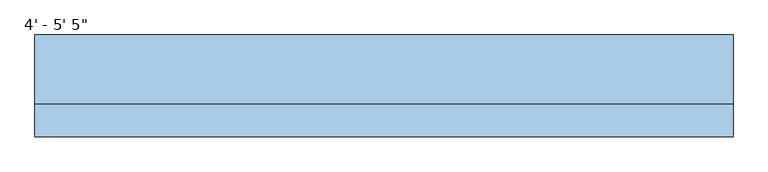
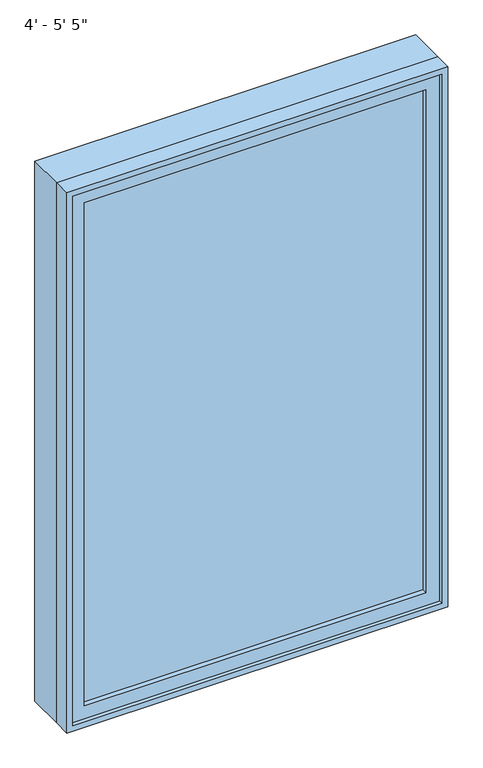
"""IFC4 building model written with IfcOpenShell, lengths in millimetres: window geometry."""

import ifcopenshell
import ifcopenshell.guid

model = None  # the IFC model being written
_history = None  # IfcOwnerHistory: only IFC2X3 demands one
_inside = {}  # id of a spatial element -> (the spatial element, [elements in it])
_under = {}  # id of a project, library or spatial element -> (it, [spatial elements below it])
_declared = {}  # id of a project -> (the project, [libraries it declares])
_typed = {}  # id of a type object -> (the type object, [elements of that type])
_made_of = {}  # id of a material, layer set ... -> (it, [elements and type objects made of it])


def new_model(schema):
    """Start an empty IFC model of exactly this schema.

    Asked for "IFC4X3", IfcOpenShell would pick the latest addendum, in which some entities
    have other attributes; the version numbers below select the first issue.
    IFC2X3 requires an IfcOwnerHistory on every rooted entity: one is made here for all.
    """
    global model, _history
    if schema == "IFC4X3":
        model = ifcopenshell.file(schema_version=(4, 3, 0, 0))
    else:
        model = ifcopenshell.file(schema=schema)
    _inside.clear()
    _under.clear()
    _declared.clear()
    _typed.clear()
    _made_of.clear()
    _history = None
    if model.schema == "IFC2X3":
        org = make("IfcOrganization", Name="unknown")
        user = make(
            "IfcPersonAndOrganization",
            ThePerson=make("IfcPerson", FamilyName="unknown"),
            TheOrganization=org,
        )
        app = make(
            "IfcApplication",
            ApplicationDeveloper=org,
            Version="unknown",
            ApplicationFullName="unknown",
            ApplicationIdentifier="unknown",
        )
        _history = make(
            "IfcOwnerHistory",
            OwningUser=user,
            OwningApplication=app,
            ChangeAction="ADDED",
            CreationDate=0,
        )
    return model


def make(cls, **values):
    """One entity of the class cls with the attributes given. An attribute that is None is left unset."""
    return model.create_entity(
        cls, **{name: value for name, value in values.items() if value is not None}
    )


def rooted(cls, **values):
    """An entity with a GlobalId (a new one), such as an element, a storey or a relation."""
    return make(cls, GlobalId=ifcopenshell.guid.new(), OwnerHistory=_history, **values)


def si_unit(unit_type, name, prefix=None):
    """IfcSIUnit, for example si_unit("LENGTHUNIT", "METRE", prefix="MILLI")."""
    return make("IfcSIUnit", UnitType=unit_type, Prefix=prefix, Name=name)


def assignment(units):
    """IfcUnitAssignment: the units of a project."""
    return None if units is None else make("IfcUnitAssignment", Units=units)


def point(xyz):
    """IfcCartesianPoint."""
    return None if xyz is None else make("IfcCartesianPoint", Coordinates=xyz)


def direction(xyz):
    """IfcDirection."""
    return None if xyz is None else make("IfcDirection", DirectionRatios=xyz)


def frame(location, z_axis=None, x_axis=None):
    """IfcAxis2Placement3D, a coordinate frame: its origin and axes. An axis left out is left unset."""
    return make(
        "IfcAxis2Placement3D",
        Location=point(location),
        Axis=direction(z_axis),
        RefDirection=direction(x_axis),
    )


def origin():
    """The frame at (0, 0, 0) with its axes left unset."""
    return frame((0.0, 0.0, 0.0))


def place(relative_to, where):
    """IfcLocalPlacement: puts the frame where relative to a parent placement (None: the world)."""
    return make(
        "IfcLocalPlacement", PlacementRelTo=relative_to, RelativePlacement=where
    )


def context(
    kind, dimensions, precision=None, world=None, true_north=None, identifier=None
):
    """IfcGeometricRepresentationContext, for example the 3D "Model" context."""
    return make(
        "IfcGeometricRepresentationContext",
        ContextIdentifier=identifier,
        ContextType=kind,
        CoordinateSpaceDimension=dimensions,
        Precision=precision,
        WorldCoordinateSystem=world,
        TrueNorth=true_north,
    )


def project(units=None, contexts=None):
    """IfcProject with its units and contexts."""
    return rooted(
        "IfcProject",
        Name="project",
        RepresentationContexts=contexts,
        UnitsInContext=assignment(units),
    )


def spatial(cls, under=None, at=None, **own):
    """A site, building, storey or space (cls), placed at a placement, below another one or the project."""
    s = rooted(cls, ObjectPlacement=at, **own)
    if under is not None:
        _under.setdefault(under.id(), (under, []))[1].append(s)
    return s


def polyline(points):
    """IfcPolyline through the points."""
    return make("IfcPolyline", Points=[point(p) for p in points])


def outline(outer, holes=None, kind="AREA"):
    """IfcArbitraryClosedProfileDef: a profile drawn as a closed curve; with holes, ...WithVoids."""
    if holes is None:
        return make("IfcArbitraryClosedProfileDef", ProfileType=kind, OuterCurve=outer)
    return make(
        "IfcArbitraryProfileDefWithVoids",
        ProfileType=kind,
        OuterCurve=outer,
        InnerCurves=holes,
    )


def extrude(swept, where, along, depth):
    """IfcExtrudedAreaSolid: the profile swept, set in the frame where, extruded along a direction by depth."""
    return make(
        "IfcExtrudedAreaSolid",
        SweptArea=swept,
        Position=where,
        ExtrudedDirection=direction(along),
        Depth=depth,
    )


def shape(context_of_items, identifier, shape_type, items):
    """IfcShapeRepresentation: the items that make up one representation, for example the "Body"."""
    return make(
        "IfcShapeRepresentation",
        ContextOfItems=context_of_items,
        RepresentationIdentifier=identifier,
        RepresentationType=shape_type,
        Items=items,
    )


def source(mapping_origin, context_of_items, identifier, shape_type, items):
    """IfcRepresentationMap: a shape defined once, which mapped items show again and again."""
    return make(
        "IfcRepresentationMap",
        MappingOrigin=mapping_origin,
        MappedRepresentation=shape(context_of_items, identifier, shape_type, items),
    )


def transform(
    local_origin,
    x_axis=None,
    y_axis=None,
    z_axis=None,
    scale=None,
    scale2=None,
    scale3=None,
    uniform=True,
):
    """IfcCartesianTransformationOperator3D, or its non-uniform kind. x_axis, y_axis, z_axis: its Axis1, 2, 3."""
    if uniform:
        return make(
            "IfcCartesianTransformationOperator3D",
            Axis1=direction(x_axis),
            Axis2=direction(y_axis),
            LocalOrigin=point(local_origin),
            Scale=scale,
            Axis3=direction(z_axis),
        )
    return make(
        "IfcCartesianTransformationOperator3DnonUniform",
        Axis1=direction(x_axis),
        Axis2=direction(y_axis),
        LocalOrigin=point(local_origin),
        Scale=scale,
        Axis3=direction(z_axis),
        Scale2=scale2,
        Scale3=scale3,
    )


def mapped(mapping_source, mapping_target):
    """IfcMappedItem: shows the shape of a source again, moved by a transform."""
    return make(
        "IfcMappedItem", MappingSource=mapping_source, MappingTarget=mapping_target
    )


def made_of(thing, what):
    """Note that an element or type object is made of a material, layer set ...; save() writes the relation."""
    if what is not None:
        _made_of.setdefault(what.id(), (what, []))[1].append(thing)
    return thing


def element(
    cls,
    number,
    at=None,
    inside=None,
    cuts=None,
    type_object=None,
    material=None,
    context=None,
    identifier="Body",
    shape_type=None,
    held_by="IfcProductDefinitionShape",
    body=None,
    shapes=None,
    **own,
):
    """One element of the class cls, such as IfcWall. Its Tag is "e" and its number.

    at: its placement. inside: the storey or other place that contains it. cuts: it is an
    opening in that element (IfcRelVoidsElement). A single representation is given by context,
    identifier, shape_type and body (its items); several are given by shapes. held_by: the class
    of the entity that holds the representations. save() writes the other relations.
    """
    e = rooted(cls, Tag="e%d" % number, ObjectPlacement=at, **own)
    if body is not None:
        shapes = [shape(context, identifier, shape_type, body)]
    if shapes is not None:
        e.Representation = make(held_by, Representations=shapes)
    if inside is not None:
        _inside.setdefault(inside.id(), (inside, []))[1].append(e)
    if cuts is not None:
        rooted(
            "IfcRelVoidsElement", RelatingBuildingElement=cuts, RelatedOpeningElement=e
        )
    if type_object is not None:
        _typed.setdefault(type_object.id(), (type_object, []))[1].append(e)
    return made_of(e, material)


def aggregate(whole, parts):
    """IfcRelAggregates: a whole, such as a stair, and the parts it consists of."""
    return rooted("IfcRelAggregates", RelatingObject=whole, RelatedObjects=parts)


def save(model, path):
    """Write the relations noted so far, then the file.

    IfcRelAggregates (storeys below a building ...), IfcRelContainedInSpatialStructure (elements
    in a storey), IfcRelDefinesByType, IfcRelAssociatesMaterial and IfcRelDeclares: one each for
    every whole, place, type object, material and project.
    """
    for whole, parts in _under.values():
        aggregate(whole, parts)
    for where, things in _inside.values():
        rooted(
            "IfcRelContainedInSpatialStructure",
            RelatedElements=things,
            RelatingStructure=where,
        )
    for kind, things in _typed.values():
        rooted("IfcRelDefinesByType", RelatedObjects=things, RelatingType=kind)
    for what, things in _made_of.values():
        rooted("IfcRelAssociatesMaterial", RelatedObjects=things, RelatingMaterial=what)
    for by, libraries in _declared.values():
        rooted("IfcRelDeclares", RelatingContext=by, RelatedDefinitions=libraries)
    model.write(path)


def window_e2ec097b(model_context):
    return source(origin(), model_context, "Body", "SweptSolid", [
        extrude(outline(polyline([(2724.2, -590.6), (933.4, -590.6), (933.4, 590.6), (2724.2, 590.6), (2724.2, -590.6)]), holes=[polyline([(2680.2, -546.6), (2680.2, 546.6), (977.4, 546.6), (977.4, -546.6), (2680.2, -546.6)])]), frame((0.0, -89.2, 0.0), z_axis=(0.0, 1.0, 0.0), x_axis=(0.0, 0.0, 1.0)), (0.0, 0.0, 1.0), 44.0),
        extrude(outline(polyline([(2743.2, -609.6), (914.4, -609.6), (914.4, 609.6), (2743.2, 609.6), (2743.2, -609.6)]), holes=[polyline([(2724.2, -590.6), (2724.2, 590.6), (933.4, 590.6), (933.4, -590.6), (2724.2, -590.6)])]), frame((0.0, -101.9, 0.0), z_axis=(0.0, 1.0, 0.0), x_axis=(0.0, 0.0, 1.0)), (0.0, 0.0, 1.0), 56.7),
        extrude(outline(polyline([(2743.2, -609.6), (914.4, -609.6), (914.4, 609.6), (2743.2, 609.6), (2743.2, -609.6)]), holes=[polyline([(2711.2, -577.6), (2711.2, 577.6), (946.4, 577.6), (946.4, -577.6), (2711.2, -577.6)])]), frame((0.0, -45.2, 0.0), z_axis=(0.0, 1.0, 0.0), x_axis=(0.0, 0.0, 1.0)), (0.0, 0.0, 1.0), 121.1),
        extrude(outline(polyline([(-546.6, -73.2), (-546.6, -61.2), (546.6, -61.2), (546.6, -73.2), (-546.6, -73.2)])), frame((0.0, 0.0, 977.4), z_axis=(0.0, 0.0, 1.0), x_axis=(1.0, 0.0, 0.0)), (0.0, 0.0, 1.0), 1702.8),
    ])


if __name__ == "__main__":
    model = new_model("IFC4")
    model_context = context("Model", 3, world=origin())
    ifc_project = project(units=[si_unit("LENGTHUNIT", "METRE", prefix="MILLI")], contexts=[model_context])
    site = spatial("IfcSite", under=ifc_project)
    building = spatial("IfcBuilding", under=site)
    placement = place(None, origin())
    window_shape = window_e2ec097b(model_context)
    element("IfcWindow", 1, ObjectType="Planitar-Fixed : 4' - 5' 5\"", at=placement, inside=building, context=model_context, shape_type="MappedRepresentation", body=[
        mapped(window_shape, transform((0.0, 0.0, 0.0), x_axis=(1.0, 0.0, 0.0), y_axis=(0.0, 1.0, 0.0), z_axis=(0.0, 0.0, 1.0))),
    ])
    save(model, "model.ifc")
